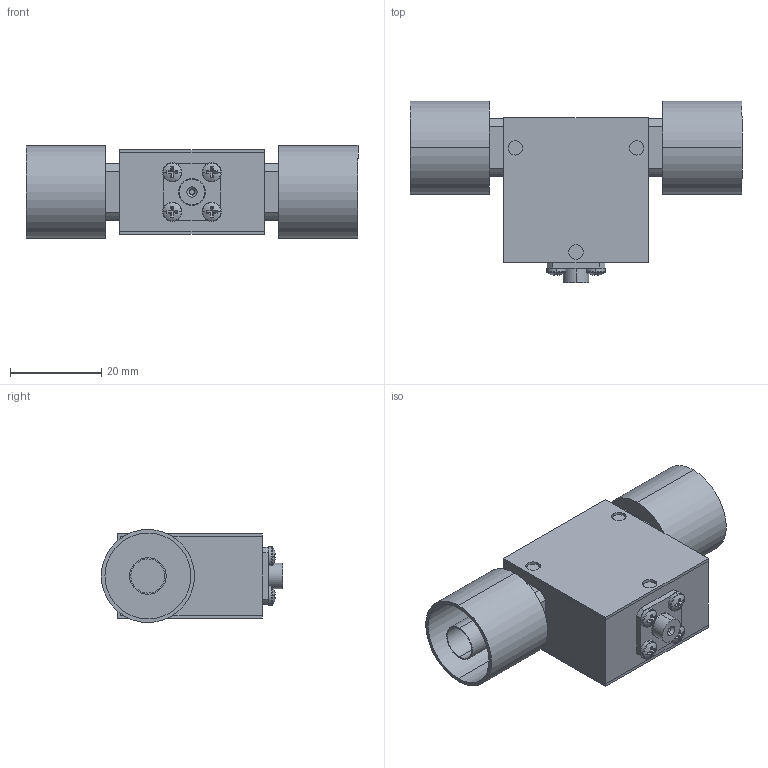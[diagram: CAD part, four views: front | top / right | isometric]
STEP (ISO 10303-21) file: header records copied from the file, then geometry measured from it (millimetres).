
FILE_DESCRIPTION (( 'STEP AP214' ), '1' );
FILE_NAME ('Package 8 Iso MM Type-N.step', '2021-12-01T21:02:25', ( '' ), ( '' ), 'SwSTEP 2.0', 'SolidWorks 2016', '' );
FILE_SCHEMA (( 'AUTOMOTIVE_DESIGN' ));
Length unit declared in the file: inch
Products named in the file (6): Delta Type N Male, 0.5in flange; 030013-1A; Package Size 8; Package 8 Iso MM Type-N; pan cross head_ai_CR-PHMS 0.086-56x0.125x0.125-N; Package 8
Assembly tree (9 placements, depth 2):
  Package 8 Iso MM Type-N
    Package Size 8
    Package 8
    030013-1A
    pan cross head_ai_CR-PHMS 0.086-56x0.125x0.125-N  x4
    Delta Type N Male, 0.5in flange  x2
Bounding box: 72.9 x 39.81 x 20.45 mm (x, y, z)
Volume: 22970 mm3; surface area: 17367.8 mm2
Topology: 9 solids, 9 shells, 220 faces, 496 edges, 316 vertices
Faces by surface type: plane 112, cylinder 86, torus 10, sphere 8, cone 4
Entity records: 3746 total; most frequent: DIRECTION 672, CARTESIAN_POINT 581, ORIENTED_EDGE 548, EDGE_CURVE 274, AXIS2_PLACEMENT_3D 269, VERTEX_POINT 178, EDGE_LOOP 150, CIRCLE 140
